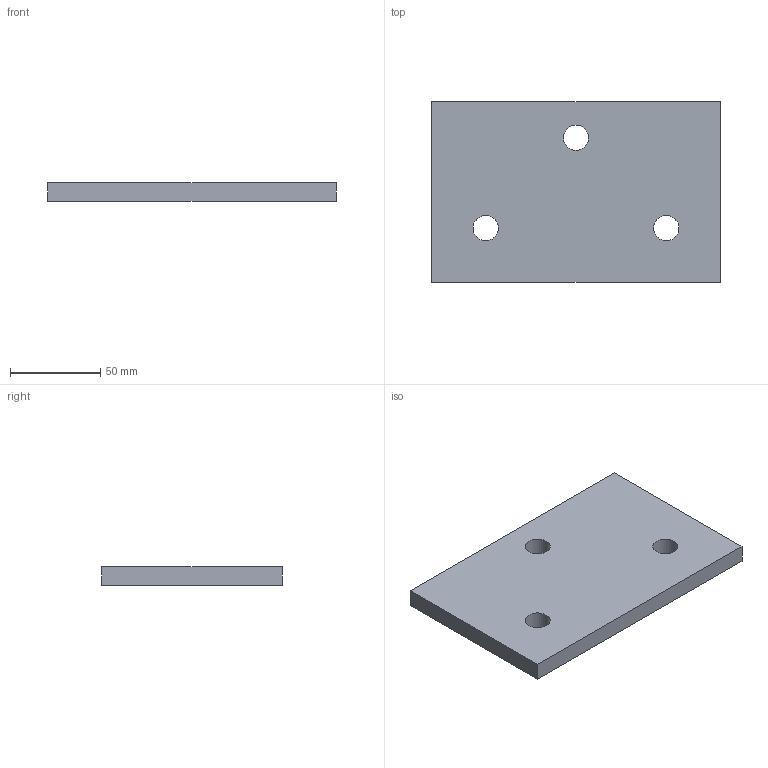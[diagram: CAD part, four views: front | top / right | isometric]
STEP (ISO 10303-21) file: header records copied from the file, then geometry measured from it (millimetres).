
FILE_DESCRIPTION(/* description */ (''),/* implementation_level */ '2;1');
FILE_NAME(/* name */ 'Pos106-Strip 100x10-S235JRG2-8st',/* time_stamp */ '2024-08-06T11:42:42+02:00',/* author */ (''),/* organization */ (''),/* preprocessor_version */ 'ST-DEVELOPER v16.5',/* originating_system */ 'HiCAD 2024 2901.2 Build 361',/* authorisation */ '');
FILE_SCHEMA (('AUTOMOTIVE_DESIGN { 1 0 10303 214 1 1 1 1 }'));
Length unit declared in the file: millimetre
Products named in the file (1): Pos106-Strip 100x10-S235JRG2-8st
Bounding box: 160 x 100 x 10 mm (x, y, z)
Volume: 155381.9 mm3; surface area: 37595.8 mm2
Topology: 1 solids, 1 shells, 9 faces, 24 edges, 17 vertices
Faces by surface type: plane 6, cylinder 3
Full cylindrical faces by diameter (mm): 14 x3
Entity records: 456 total; most frequent: DIRECTION 42, CARTESIAN_POINT 41, PRESENTATION_STYLE_ASSIGNMENT 37, COLOUR_RGB 37, DRAUGHTING_PRE_DEFINED_CURVE_FONT 36, CURVE_STYLE 36, OVER_RIDING_STYLED_ITEM 36, ORIENTED_EDGE 36
